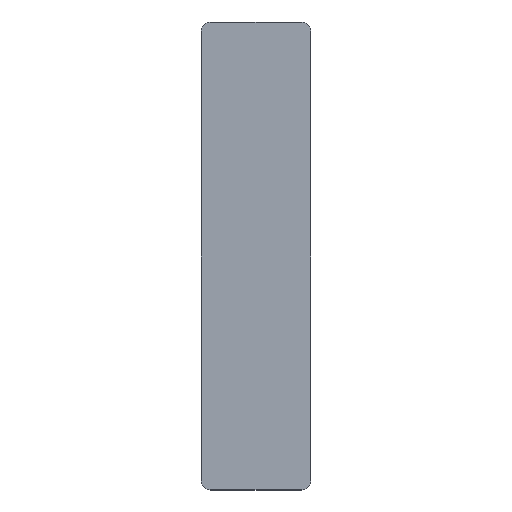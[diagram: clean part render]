
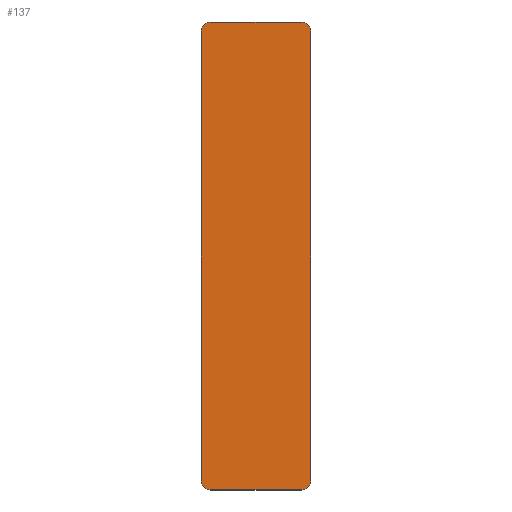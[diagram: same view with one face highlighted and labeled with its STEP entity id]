
A CAD part, top view. The second image highlights one B-rep face of the part: STEP entity #137.
In plain terms, the highlighted planar face has unit normal (0, 0, 1).
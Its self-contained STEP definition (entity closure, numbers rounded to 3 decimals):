
#21 = EDGE_CURVE('',#22,#24,#26,.T.);
#22 = VERTEX_POINT('',#23);
#23 = CARTESIAN_POINT('',(-11.5,-47.,-10.2));
#24 = VERTEX_POINT('',#25);
#25 = CARTESIAN_POINT('',(-11.5,47.,-10.2));
#26 = SURFACE_CURVE('',#27,(#31,#43),.PCURVE_S1.);
#27 = LINE('',#28,#29);
#28 = CARTESIAN_POINT('',(-11.5,-49.,-10.2));
#29 = VECTOR('',#30,1.);
#30 = DIRECTION('',(0.,1.,0.));
#31 = PCURVE('',#32,#37);
#32 = PLANE('',#33);
#33 = AXIS2_PLACEMENT_3D('',#34,#35,#36);
#34 = CARTESIAN_POINT('',(-11.5,-49.,-10.4));
#35 = DIRECTION('',(1.,0.,0.));
#36 = DIRECTION('',(0.,0.,1.));
#37 = DEFINITIONAL_REPRESENTATION('',(#38),#42);
#38 = LINE('',#39,#40);
#39 = CARTESIAN_POINT('',(0.2,0.));
#40 = VECTOR('',#41,1.);
#41 = DIRECTION('',(0.,-1.));
#42 = ( GEOMETRIC_REPRESENTATION_CONTEXT(2) 
PARAMETRIC_REPRESENTATION_CONTEXT() REPRESENTATION_CONTEXT('2D SPACE',''
  ) );
#43 = PCURVE('',#44,#49);
#44 = PLANE('',#45);
#45 = AXIS2_PLACEMENT_3D('',#46,#47,#48);
#46 = CARTESIAN_POINT('',(-11.5,-49.,-10.2));
#47 = DIRECTION('',(0.,0.,1.));
#48 = DIRECTION('',(1.,0.,0.));
#49 = DEFINITIONAL_REPRESENTATION('',(#50),#54);
#50 = LINE('',#51,#52);
#51 = CARTESIAN_POINT('',(0.,0.));
#52 = VECTOR('',#53,1.);
#53 = DIRECTION('',(0.,1.));
#54 = ( GEOMETRIC_REPRESENTATION_CONTEXT(2) 
PARAMETRIC_REPRESENTATION_CONTEXT() REPRESENTATION_CONTEXT('2D SPACE',''
  ) );
#72 = CYLINDRICAL_SURFACE('',#73,2.);
#73 = AXIS2_PLACEMENT_3D('',#74,#75,#76);
#74 = CARTESIAN_POINT('',(-9.5,-47.,-10.4));
#75 = DIRECTION('',(0.,0.,1.));
#76 = DIRECTION('',(-1.,-0.,0.));
#126 = CYLINDRICAL_SURFACE('',#127,2.);
#127 = AXIS2_PLACEMENT_3D('',#128,#129,#130);
#128 = CARTESIAN_POINT('',(-9.5,47.,-10.4));
#129 = DIRECTION('',(0.,0.,1.));
#130 = DIRECTION('',(-1.,-0.,0.));
#137 = ADVANCED_FACE('',(#138),#44,.T.);
#138 = FACE_BOUND('',#139,.T.);
#139 = EDGE_LOOP('',(#140,#141,#165,#193,#226,#254,#283,#311));
#140 = ORIENTED_EDGE('',*,*,#21,.F.);
#141 = ORIENTED_EDGE('',*,*,#142,.T.);
#142 = EDGE_CURVE('',#22,#143,#145,.T.);
#143 = VERTEX_POINT('',#144);
#144 = CARTESIAN_POINT('',(-9.5,-49.,-10.2));
#145 = SURFACE_CURVE('',#146,(#151,#158),.PCURVE_S1.);
#146 = CIRCLE('',#147,2.);
#147 = AXIS2_PLACEMENT_3D('',#148,#149,#150);
#148 = CARTESIAN_POINT('',(-9.5,-47.,-10.2));
#149 = DIRECTION('',(0.,0.,1.));
#150 = DIRECTION('',(0.,-1.,0.));
#151 = PCURVE('',#44,#152);
#152 = DEFINITIONAL_REPRESENTATION('',(#153),#157);
#153 = CIRCLE('',#154,2.);
#154 = AXIS2_PLACEMENT_2D('',#155,#156);
#155 = CARTESIAN_POINT('',(2.,2.));
#156 = DIRECTION('',(0.,-1.));
#157 = ( GEOMETRIC_REPRESENTATION_CONTEXT(2) 
PARAMETRIC_REPRESENTATION_CONTEXT() REPRESENTATION_CONTEXT('2D SPACE',''
  ) );
#158 = PCURVE('',#72,#159);
#159 = DEFINITIONAL_REPRESENTATION('',(#160),#164);
#160 = LINE('',#161,#162);
#161 = CARTESIAN_POINT('',(-4.712,0.2));
#162 = VECTOR('',#163,1.);
#163 = DIRECTION('',(1.,0.));
#164 = ( GEOMETRIC_REPRESENTATION_CONTEXT(2) 
PARAMETRIC_REPRESENTATION_CONTEXT() REPRESENTATION_CONTEXT('2D SPACE',''
  ) );
#165 = ORIENTED_EDGE('',*,*,#166,.T.);
#166 = EDGE_CURVE('',#143,#167,#169,.T.);
#167 = VERTEX_POINT('',#168);
#168 = CARTESIAN_POINT('',(9.5,-49.,-10.2));
#169 = SURFACE_CURVE('',#170,(#174,#181),.PCURVE_S1.);
#170 = LINE('',#171,#172);
#171 = CARTESIAN_POINT('',(-11.5,-49.,-10.2));
#172 = VECTOR('',#173,1.);
#173 = DIRECTION('',(1.,0.,0.));
#174 = PCURVE('',#44,#175);
#175 = DEFINITIONAL_REPRESENTATION('',(#176),#180);
#176 = LINE('',#177,#178);
#177 = CARTESIAN_POINT('',(0.,0.));
#178 = VECTOR('',#179,1.);
#179 = DIRECTION('',(1.,0.));
#180 = ( GEOMETRIC_REPRESENTATION_CONTEXT(2) 
PARAMETRIC_REPRESENTATION_CONTEXT() REPRESENTATION_CONTEXT('2D SPACE',''
  ) );
#181 = PCURVE('',#182,#187);
#182 = PLANE('',#183);
#183 = AXIS2_PLACEMENT_3D('',#184,#185,#186);
#184 = CARTESIAN_POINT('',(-11.5,-49.,-10.4));
#185 = DIRECTION('',(0.,1.,0.));
#186 = DIRECTION('',(0.,0.,1.));
#187 = DEFINITIONAL_REPRESENTATION('',(#188),#192);
#188 = LINE('',#189,#190);
#189 = CARTESIAN_POINT('',(0.2,0.));
#190 = VECTOR('',#191,1.);
#191 = DIRECTION('',(0.,1.));
#192 = ( GEOMETRIC_REPRESENTATION_CONTEXT(2) 
PARAMETRIC_REPRESENTATION_CONTEXT() REPRESENTATION_CONTEXT('2D SPACE',''
  ) );
#193 = ORIENTED_EDGE('',*,*,#194,.F.);
#194 = EDGE_CURVE('',#195,#167,#197,.T.);
#195 = VERTEX_POINT('',#196);
#196 = CARTESIAN_POINT('',(11.5,-47.,-10.2));
#197 = SURFACE_CURVE('',#198,(#203,#214),.PCURVE_S1.);
#198 = CIRCLE('',#199,2.);
#199 = AXIS2_PLACEMENT_3D('',#200,#201,#202);
#200 = CARTESIAN_POINT('',(9.5,-47.,-10.2));
#201 = DIRECTION('',(-0.,-0.,-1.));
#202 = DIRECTION('',(0.,-1.,0.));
#203 = PCURVE('',#44,#204);
#204 = DEFINITIONAL_REPRESENTATION('',(#205),#213);
#205 = ( BOUNDED_CURVE() B_SPLINE_CURVE(2,(#206,#207,#208,#209,#210,#211
,#212),.UNSPECIFIED.,.T.,.F.) B_SPLINE_CURVE_WITH_KNOTS((1,2,2,2,2,1),(
    -2.094,0.,2.094,4.189,6.283,
8.378),.UNSPECIFIED.) CURVE() GEOMETRIC_REPRESENTATION_ITEM() 
RATIONAL_B_SPLINE_CURVE((1.,0.5,1.,0.5,1.,0.5,1.)) REPRESENTATION_ITEM(
  '') );
#206 = CARTESIAN_POINT('',(21.,0.));
#207 = CARTESIAN_POINT('',(17.536,0.));
#208 = CARTESIAN_POINT('',(19.268,3.));
#209 = CARTESIAN_POINT('',(21.,6.));
#210 = CARTESIAN_POINT('',(22.732,3.));
#211 = CARTESIAN_POINT('',(24.464,0.));
#212 = CARTESIAN_POINT('',(21.,0.));
#213 = ( GEOMETRIC_REPRESENTATION_CONTEXT(2) 
PARAMETRIC_REPRESENTATION_CONTEXT() REPRESENTATION_CONTEXT('2D SPACE',''
  ) );
#214 = PCURVE('',#215,#220);
#215 = CYLINDRICAL_SURFACE('',#216,2.);
#216 = AXIS2_PLACEMENT_3D('',#217,#218,#219);
#217 = CARTESIAN_POINT('',(9.5,-47.,-10.4));
#218 = DIRECTION('',(0.,0.,1.));
#219 = DIRECTION('',(1.,0.,-0.));
#220 = DEFINITIONAL_REPRESENTATION('',(#221),#225);
#221 = LINE('',#222,#223);
#222 = CARTESIAN_POINT('',(4.712,0.2));
#223 = VECTOR('',#224,1.);
#224 = DIRECTION('',(-1.,0.));
#225 = ( GEOMETRIC_REPRESENTATION_CONTEXT(2) 
PARAMETRIC_REPRESENTATION_CONTEXT() REPRESENTATION_CONTEXT('2D SPACE',''
  ) );
#226 = ORIENTED_EDGE('',*,*,#227,.T.);
#227 = EDGE_CURVE('',#195,#228,#230,.T.);
#228 = VERTEX_POINT('',#229);
#229 = CARTESIAN_POINT('',(11.5,47.,-10.2));
#230 = SURFACE_CURVE('',#231,(#235,#242),.PCURVE_S1.);
#231 = LINE('',#232,#233);
#232 = CARTESIAN_POINT('',(11.5,-49.,-10.2));
#233 = VECTOR('',#234,1.);
#234 = DIRECTION('',(0.,1.,0.));
#235 = PCURVE('',#44,#236);
#236 = DEFINITIONAL_REPRESENTATION('',(#237),#241);
#237 = LINE('',#238,#239);
#238 = CARTESIAN_POINT('',(23.,0.));
#239 = VECTOR('',#240,1.);
#240 = DIRECTION('',(0.,1.));
#241 = ( GEOMETRIC_REPRESENTATION_CONTEXT(2) 
PARAMETRIC_REPRESENTATION_CONTEXT() REPRESENTATION_CONTEXT('2D SPACE',''
  ) );
#242 = PCURVE('',#243,#248);
#243 = PLANE('',#244);
#244 = AXIS2_PLACEMENT_3D('',#245,#246,#247);
#245 = CARTESIAN_POINT('',(11.5,-49.,-10.4));
#246 = DIRECTION('',(1.,0.,0.));
#247 = DIRECTION('',(0.,0.,1.));
#248 = DEFINITIONAL_REPRESENTATION('',(#249),#253);
#249 = LINE('',#250,#251);
#250 = CARTESIAN_POINT('',(0.2,0.));
#251 = VECTOR('',#252,1.);
#252 = DIRECTION('',(0.,-1.));
#253 = ( GEOMETRIC_REPRESENTATION_CONTEXT(2) 
PARAMETRIC_REPRESENTATION_CONTEXT() REPRESENTATION_CONTEXT('2D SPACE',''
  ) );
#254 = ORIENTED_EDGE('',*,*,#255,.T.);
#255 = EDGE_CURVE('',#228,#256,#258,.T.);
#256 = VERTEX_POINT('',#257);
#257 = CARTESIAN_POINT('',(9.5,49.,-10.2));
#258 = SURFACE_CURVE('',#259,(#264,#271),.PCURVE_S1.);
#259 = CIRCLE('',#260,2.);
#260 = AXIS2_PLACEMENT_3D('',#261,#262,#263);
#261 = CARTESIAN_POINT('',(9.5,47.,-10.2));
#262 = DIRECTION('',(0.,0.,1.));
#263 = DIRECTION('',(0.,-1.,0.));
#264 = PCURVE('',#44,#265);
#265 = DEFINITIONAL_REPRESENTATION('',(#266),#270);
#266 = CIRCLE('',#267,2.);
#267 = AXIS2_PLACEMENT_2D('',#268,#269);
#268 = CARTESIAN_POINT('',(21.,96.));
#269 = DIRECTION('',(0.,-1.));
#270 = ( GEOMETRIC_REPRESENTATION_CONTEXT(2) 
PARAMETRIC_REPRESENTATION_CONTEXT() REPRESENTATION_CONTEXT('2D SPACE',''
  ) );
#271 = PCURVE('',#272,#277);
#272 = CYLINDRICAL_SURFACE('',#273,2.);
#273 = AXIS2_PLACEMENT_3D('',#274,#275,#276);
#274 = CARTESIAN_POINT('',(9.5,47.,-10.4));
#275 = DIRECTION('',(0.,0.,1.));
#276 = DIRECTION('',(1.,0.,-0.));
#277 = DEFINITIONAL_REPRESENTATION('',(#278),#282);
#278 = LINE('',#279,#280);
#279 = CARTESIAN_POINT('',(-1.571,0.2));
#280 = VECTOR('',#281,1.);
#281 = DIRECTION('',(1.,0.));
#282 = ( GEOMETRIC_REPRESENTATION_CONTEXT(2) 
PARAMETRIC_REPRESENTATION_CONTEXT() REPRESENTATION_CONTEXT('2D SPACE',''
  ) );
#283 = ORIENTED_EDGE('',*,*,#284,.F.);
#284 = EDGE_CURVE('',#285,#256,#287,.T.);
#285 = VERTEX_POINT('',#286);
#286 = CARTESIAN_POINT('',(-9.5,49.,-10.2));
#287 = SURFACE_CURVE('',#288,(#292,#299),.PCURVE_S1.);
#288 = LINE('',#289,#290);
#289 = CARTESIAN_POINT('',(-11.5,49.,-10.2));
#290 = VECTOR('',#291,1.);
#291 = DIRECTION('',(1.,0.,0.));
#292 = PCURVE('',#44,#293);
#293 = DEFINITIONAL_REPRESENTATION('',(#294),#298);
#294 = LINE('',#295,#296);
#295 = CARTESIAN_POINT('',(0.,98.));
#296 = VECTOR('',#297,1.);
#297 = DIRECTION('',(1.,0.));
#298 = ( GEOMETRIC_REPRESENTATION_CONTEXT(2) 
PARAMETRIC_REPRESENTATION_CONTEXT() REPRESENTATION_CONTEXT('2D SPACE',''
  ) );
#299 = PCURVE('',#300,#305);
#300 = PLANE('',#301);
#301 = AXIS2_PLACEMENT_3D('',#302,#303,#304);
#302 = CARTESIAN_POINT('',(-11.5,49.,-10.4));
#303 = DIRECTION('',(0.,1.,0.));
#304 = DIRECTION('',(0.,0.,1.));
#305 = DEFINITIONAL_REPRESENTATION('',(#306),#310);
#306 = LINE('',#307,#308);
#307 = CARTESIAN_POINT('',(0.2,0.));
#308 = VECTOR('',#309,1.);
#309 = DIRECTION('',(0.,1.));
#310 = ( GEOMETRIC_REPRESENTATION_CONTEXT(2) 
PARAMETRIC_REPRESENTATION_CONTEXT() REPRESENTATION_CONTEXT('2D SPACE',''
  ) );
#311 = ORIENTED_EDGE('',*,*,#312,.F.);
#312 = EDGE_CURVE('',#24,#285,#313,.T.);
#313 = SURFACE_CURVE('',#314,(#319,#330),.PCURVE_S1.);
#314 = CIRCLE('',#315,2.);
#315 = AXIS2_PLACEMENT_3D('',#316,#317,#318);
#316 = CARTESIAN_POINT('',(-9.5,47.,-10.2));
#317 = DIRECTION('',(-0.,-0.,-1.));
#318 = DIRECTION('',(0.,-1.,0.));
#319 = PCURVE('',#44,#320);
#320 = DEFINITIONAL_REPRESENTATION('',(#321),#329);
#321 = ( BOUNDED_CURVE() B_SPLINE_CURVE(2,(#322,#323,#324,#325,#326,#327
,#328),.UNSPECIFIED.,.T.,.F.) B_SPLINE_CURVE_WITH_KNOTS((1,2,2,2,2,1),(
    -2.094,0.,2.094,4.189,6.283,
8.378),.UNSPECIFIED.) CURVE() GEOMETRIC_REPRESENTATION_ITEM() 
RATIONAL_B_SPLINE_CURVE((1.,0.5,1.,0.5,1.,0.5,1.)) REPRESENTATION_ITEM(
  '') );
#322 = CARTESIAN_POINT('',(2.,94.));
#323 = CARTESIAN_POINT('',(-1.464,94.));
#324 = CARTESIAN_POINT('',(0.268,97.));
#325 = CARTESIAN_POINT('',(2.,100.));
#326 = CARTESIAN_POINT('',(3.732,97.));
#327 = CARTESIAN_POINT('',(5.464,94.));
#328 = CARTESIAN_POINT('',(2.,94.));
#329 = ( GEOMETRIC_REPRESENTATION_CONTEXT(2) 
PARAMETRIC_REPRESENTATION_CONTEXT() REPRESENTATION_CONTEXT('2D SPACE',''
  ) );
#330 = PCURVE('',#126,#331);
#331 = DEFINITIONAL_REPRESENTATION('',(#332),#336);
#332 = LINE('',#333,#334);
#333 = CARTESIAN_POINT('',(1.571,0.2));
#334 = VECTOR('',#335,1.);
#335 = DIRECTION('',(-1.,0.));
#336 = ( GEOMETRIC_REPRESENTATION_CONTEXT(2) 
PARAMETRIC_REPRESENTATION_CONTEXT() REPRESENTATION_CONTEXT('2D SPACE',''
  ) );
